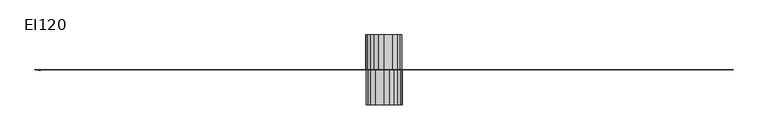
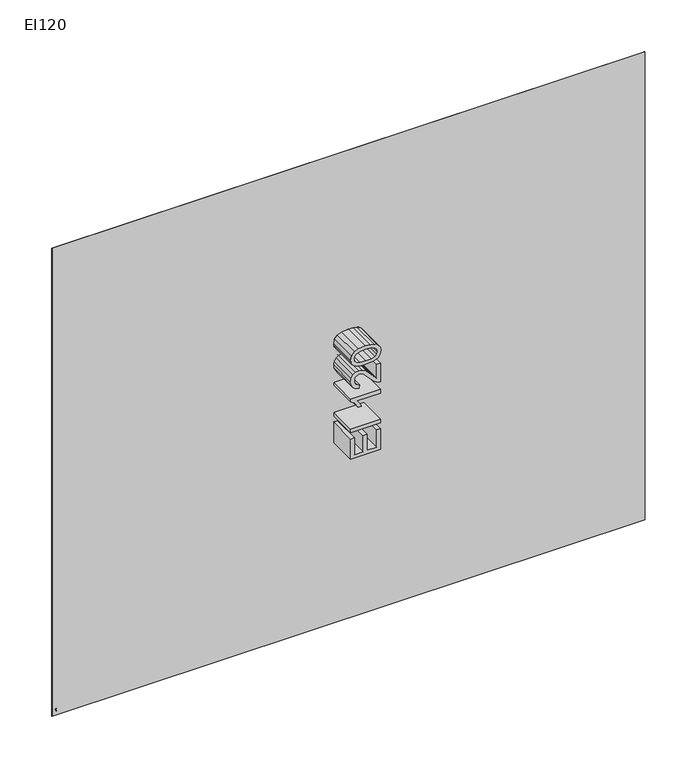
"""IFC4 building model written with IfcOpenShell, lengths in millimetres: proxy geometry, Fire_FireCompartmentationEI : EI120."""

from ifc_helpers import new_model, si_unit, point, frame, frame_2d, origin, origin_with_axes, place, context, project, spatial, polyline, circle_curve, trimmed, segment, composite_curve, outline, extrude, source, transform, mapped, element, save


def ei120_9daad97f(model_context):
    return source(origin(), model_context, "Body", "SweptSolid", [
        extrude(outline(polyline([(3000.0, -0.5), (0.0, -0.5), (0.0, 0.5), (3000.0, 0.5), (3000.0, -0.5)])), origin_with_axes(), (0.0, 0.0, 1.0), 2500.0),
        extrude(outline(composite_curve([segment(trimmed(circle_curve(frame_2d((28.9488523, 20.9372462)), 4.3000253), [point((27.7936078, 25.0791815))], [point((29.724042, 25.1668205))], False, "CARTESIAN"), True, "CONTINUOUS"), segment(trimmed(circle_curve(frame_2d((29.6833004, 19.2917407)), 5.875221), [point((29.724042, 25.1668205))], [point((32.6283278, 24.3755421))], False, "CARTESIAN"), True, "CONTINUOUS"), segment(trimmed(circle_curve(frame_2d((32.8576867, 20.8662932)), 3.5167361), [point((32.6283278, 24.3755421))], [point((30.6249304, 23.5833197))], True, "CARTESIAN"), True, "CONTINUOUS"), segment(trimmed(circle_curve(frame_2d((10.876956, 53.8348059)), 36.1266511), [point((30.6249304, 23.5833197))], [point((25.8949704, 20.9776277))], False, "CARTESIAN"), True, "CONTINUOUS"), segment(trimmed(circle_curve(frame_2d((21.9041848, 33.757735)), 13.3887083), [point((25.8949704, 20.9776277))], [point((22.6832699, 20.3917132))], False, "CARTESIAN"), True, "CONTINUOUS"), segment(trimmed(circle_curve(frame_2d((20.9508608, 39.8789486)), 19.5640891), [point((22.6832699, 20.3917132))], [point((20.0109811, 20.3374489))], False, "CARTESIAN"), True, "CONTINUOUS"), segment(trimmed(circle_curve(frame_2d((18.2722891, 30.1747881)), 9.9898094), [point((20.0109811, 20.3374489))], [point((25.2489423, 23.0247809))], True, "CARTESIAN"), True, "CONTINUOUS"), segment(trimmed(circle_curve(frame_2d((30.9774835, 18.5323372)), 7.2799887), [point((25.2489423, 23.0247809))], [point((27.7936078, 25.0791815))], False, "CARTESIAN"), True, "CONTINUOUS")], self_intersect=False)), frame((0.0, -0.6, 0.0), z_axis=(0.0, 1.0, 0.0), x_axis=(0.0, 0.0, 1.0)), (0.0, 0.0, 1.0), 1.2),
        extrude(outline(composite_curve([segment(trimmed(circle_curve(frame_2d((34.8553456, 17.4656787)), 4.3823741), [point((35.4675373, 21.8050824))], [point((32.7666638, 21.3182897))], True, "CARTESIAN"), True, "CONTINUOUS"), segment(trimmed(circle_curve(frame_2d((31.0348418, 25.2412811)), 4.2882478), [point((32.7666638, 21.3182897))], [point((31.0556823, 20.9530839))], False, "CARTESIAN"), True, "CONTINUOUS"), segment(trimmed(circle_curve(frame_2d((30.8661112, 26.3534755)), 5.4037178), [point((31.0556823, 20.9530839))], [point((28.4262544, 21.5319337))], False, "CARTESIAN"), True, "CONTINUOUS"), segment(trimmed(circle_curve(frame_2d((28.9867579, 26.8058524)), 5.3036197), [point((28.4262544, 21.5319337))], [point((30.6443727, 21.7679267))], True, "CARTESIAN"), True, "CONTINUOUS"), segment(trimmed(circle_curve(frame_2d((33.7648144, 18.2895153)), 4.6729544), [point((30.6443727, 21.7679267))], [point((32.5632515, 22.8053485))], False, "CARTESIAN"), True, "CONTINUOUS"), segment(trimmed(circle_curve(frame_2d((33.1708117, 19.8529583)), 3.0142556), [point((32.5632515, 22.8053485))], [point((35.4675373, 21.8050824))], False, "CARTESIAN"), True, "CONTINUOUS")], self_intersect=False)), frame((0.0, -0.6, 0.0), z_axis=(0.0, 1.0, 0.0), x_axis=(0.0, 0.0, 1.0)), (0.0, 0.0, 1.0), 1.2),
        extrude(outline(composite_curve([segment(trimmed(circle_curve(frame_2d((26.35828, 17.8501973)), 2.1465167), [point((27.6612009, 19.5560492))], [point((26.6135063, 19.9814864))], True, "CARTESIAN"), True, "CONTINUOUS"), segment(trimmed(circle_curve(frame_2d((25.771558, 13.6747037)), 6.3627341), [point((26.6135063, 19.9814864))], [point((25.1811141, 20.0099828))], True, "CARTESIAN"), True, "CONTINUOUS"), segment(trimmed(circle_curve(frame_2d((27.6708438, 15.0485986)), 5.5510437), [point((25.1811141, 20.0099828))], [point((27.8117089, 20.5978547))], False, "CARTESIAN"), True, "CONTINUOUS"), segment(trimmed(circle_curve(frame_2d((27.9681735, 17.2267436)), 3.3747401), [point((27.8117089, 20.5978547))], [point((29.507487, 20.2299728))], False, "CARTESIAN"), True, "CONTINUOUS"), segment(trimmed(circle_curve(frame_2d((31.5381431, 23.6896238)), 4.0115769), [point((29.507487, 20.2299728))], [point((32.2223971, 19.7368341))], True, "CARTESIAN"), True, "CONTINUOUS"), segment(trimmed(circle_curve(frame_2d((29.9256715, 21.6889582)), 3.0142556), [point((32.2223971, 19.7368341))], [point((29.3181113, 18.736568))], False, "CARTESIAN"), True, "CONTINUOUS"), segment(trimmed(circle_curve(frame_2d((30.5170043, 23.2454076)), 4.6655095), [point((29.3181113, 18.736568))], [point((27.6612009, 19.5560492))], False, "CARTESIAN"), True, "CONTINUOUS")], self_intersect=False)), frame((0.0, -0.6, 0.0), z_axis=(0.0, 1.0, 0.0), x_axis=(0.0, 0.0, 1.0)), (0.0, 0.0, 1.0), 1.2),
        extrude(outline(composite_curve([segment(trimmed(circle_curve(frame_2d((32.8467056, 19.4711557)), 3.5167361), [point((30.6139493, 16.7541292))], [point((32.6173467, 15.9619068))], True, "CARTESIAN"), True, "CONTINUOUS"), segment(trimmed(circle_curve(frame_2d((29.6723193, 21.0457082)), 5.875221), [point((32.6173467, 15.9619068))], [point((29.7130609, 15.1706284))], False, "CARTESIAN"), True, "CONTINUOUS"), segment(trimmed(circle_curve(frame_2d((28.9378712, 19.4002026)), 4.3000253), [point((29.7130609, 15.1706284))], [point((27.7826267, 15.2582674))], False, "CARTESIAN"), True, "CONTINUOUS"), segment(trimmed(circle_curve(frame_2d((30.9665024, 21.8051117)), 7.2799887), [point((27.7826267, 15.2582674))], [point((25.2379612, 17.312668))], False, "CARTESIAN"), True, "CONTINUOUS"), segment(trimmed(circle_curve(frame_2d((18.261308, 10.1626608)), 9.9898094), [point((25.2379612, 17.312668))], [point((20.0, 20.0))], True, "CARTESIAN"), True, "CONTINUOUS"), segment(trimmed(circle_curve(frame_2d((20.9398797, 0.4585003)), 19.5640891), [point((20.0, 20.0))], [point((22.6722888, 19.9457357))], False, "CARTESIAN"), True, "CONTINUOUS"), segment(trimmed(circle_curve(frame_2d((21.8932037, 6.5797139)), 13.3887083), [point((22.6722888, 19.9457357))], [point((25.8839893, 19.3598212))], False, "CARTESIAN"), True, "CONTINUOUS"), segment(trimmed(circle_curve(frame_2d((10.8659749, -13.497357)), 36.1266511), [point((25.8839893, 19.3598212))], [point((30.6139493, 16.7541292))], False, "CARTESIAN"), True, "CONTINUOUS")], self_intersect=False)), frame((0.0, -0.6, 0.0), z_axis=(0.0, 1.0, 0.0), x_axis=(0.0, 0.0, 1.0)), (0.0, 0.0, 1.0), 1.2),
        extrude(outline(polyline([(965.1121829, 1425.0), (965.1121829, 1575.6844652), (1073.4166423, 1575.6844652), (1073.4166423, 1556.8489071), (983.9477411, 1556.8489071), (983.9477411, 1512.1144565), (1068.7077528, 1512.1144565), (1068.7077528, 1493.2788983), (983.9477411, 1493.2788983), (983.9477411, 1443.8355582), (1075.7710871, 1443.8355582), (1075.7710871, 1425.0), (965.1121829, 1425.0)])), frame((0.0, 0.0, 0.0), z_axis=(0.0, 1.0, 0.0), x_axis=(0.0, 0.0, 1.0)), (0.0, 0.0, 1.0), 150.0),
        extrude(outline(polyline([(1425.0, 150.0), (1575.6844652, 150.0), (1575.6844652, 0.0), (1425.0, 0.0), (1425.0, 150.0)])), frame((0.0, 0.0, 1106.3788691), z_axis=(0.0, 0.0, 1.0), x_axis=(1.0, 0.0, 0.0)), (0.0, 0.0, 1.0), 18.8355582),
        extrude(outline(polyline([(1285.3166715, 1425.0), (1266.4811134, 1425.0), (1266.4811134, 1542.4279329), (1248.6388366, 1529.7176099), (1228.8099971, 1520.2078604), (1228.8099971, 1538.0133489), (1256.4195408, 1555.6348965), (1273.1765657, 1575.6844652), (1285.3166715, 1575.6844652), (1285.3166715, 1425.0)])), frame((0.0, 0.0, 0.0), z_axis=(0.0, 1.0, 0.0), x_axis=(0.0, 0.0, 1.0)), (0.0, 0.0, 1.0), 150.0),
        extrude(outline(polyline([(1426.5833577, 1443.8355582), (1426.5833577, 1425.0), (1327.6966774, 1425.0), (1329.7200284, 1437.9862344), (1341.1611584, 1457.9806209), (1364.7423943, 1479.8144173), (1397.2631627, 1511.1947515), (1403.3608067, 1522.0104821), (1405.3933548, 1532.5319072), (1403.4757699, 1541.9634818), (1397.7230152, 1549.8039669), (1388.8800517, 1555.087672), (1377.6918405, 1556.8489071), (1365.9426093, 1555.1290587), (1356.8145373, 1549.9695138), (1350.9238269, 1541.7749423), (1348.8866803, 1530.9500146), (1330.0511222, 1533.3044594), (1334.6174574, 1551.5238152), (1344.4904905, 1564.8319464), (1359.1551865, 1572.9713355), (1378.0965107, 1575.6844652), (1397.1757907, 1572.6678329), (1411.8128956, 1563.6179358), (1421.1249086, 1550.0982725), (1424.2289129, 1533.6723414), (1420.8811868, 1515.8116705), (1409.7527564, 1497.3439944), (1382.7686121, 1471.5370724), (1361.1003625, 1453.4188841), (1352.6022885, 1443.8355582), (1426.5833577, 1443.8355582)])), frame((0.0, 0.0, 0.0), z_axis=(0.0, 1.0, 0.0), x_axis=(0.0, 0.0, 1.0)), (0.0, 0.0, 1.0), 150.0),
        extrude(outline(polyline([(1445.4189158, 1499.128222), (1446.8030718, 1523.2474853), (1450.9555399, 1542.4831152), (1457.8349332, 1557.1294171), (1467.399865, 1567.4806967), (1479.7193134, 1573.6335231), (1494.862256, 1575.6844652), (1516.8615993, 1570.8284229), (1532.0551257, 1556.830513), (1540.8842936, 1534.5368641), (1544.3055961, 1499.128222), (1542.9352357, 1475.1469145), (1538.8241544, 1455.9572699), (1531.9861478, 1441.2971724), (1522.4350115, 1430.904506), (1510.0879721, 1424.7102929), (1494.862256, 1422.6455552), (1475.2909338, 1426.2324047), (1460.4285012, 1436.992953), (1449.1713122, 1462.4779783), (1445.4189158, 1499.128222)]), holes=[polyline([(1464.254474, 1499.1650102), (1466.461766, 1469.536714), (1473.0836419, 1452.3888145), (1482.9428793, 1444.2080387), (1494.862256, 1441.4811134), (1506.7816326, 1444.2172357), (1516.6408701, 1452.4256027), (1523.262746, 1469.5826993), (1525.470038, 1499.1650102), (1523.3363224, 1528.1265203), (1516.9351757, 1545.407777), (1507.0943323, 1553.9886246), (1494.6415268, 1556.8489071), (1482.8509088, 1554.3289154), (1473.3779475, 1546.7689404), (1466.5353424, 1528.4116288), (1464.254474, 1499.1650102)])]), frame((0.0, 0.0, 0.0), z_axis=(0.0, 1.0, 0.0), x_axis=(0.0, 0.0, 1.0)), (0.0, 0.0, 1.0), 150.0),
        extrude(outline(polyline([(965.1121829, 1575.0), (1075.7710871, 1575.0), (1075.7710871, 1556.1644418), (983.9477411, 1556.1644418), (983.9477411, 1506.7211017), (1068.7077528, 1506.7211017), (1068.7077528, 1487.8855435), (983.9477411, 1487.8855435), (983.9477411, 1443.1510929), (1073.4166423, 1443.1510929), (1073.4166423, 1424.3155348), (965.1121829, 1424.3155348), (965.1121829, 1575.0)])), frame((0.0, -150.0, 0.0), z_axis=(0.0, 1.0, 0.0), x_axis=(0.0, 0.0, 1.0)), (0.0, 0.0, 1.0), 150.0),
        extrude(outline(polyline([(1575.0, -150.0), (1424.3155348, -150.0), (1424.3155348, 0.0), (1575.0, 0.0), (1575.0, -150.0)])), frame((0.0, 0.0, 1106.3788691), z_axis=(0.0, 0.0, 1.0), x_axis=(1.0, 0.0, 0.0)), (0.0, 0.0, 1.0), 18.8355582),
        extrude(outline(polyline([(1285.3166715, 1575.0), (1285.3166715, 1424.3155348), (1273.1765657, 1424.3155348), (1256.4195408, 1444.3651035), (1228.8099971, 1461.9866511), (1228.8099971, 1479.7921396), (1248.6388366, 1470.2823901), (1266.4811134, 1457.5720671), (1266.4811134, 1575.0), (1285.3166715, 1575.0)])), frame((0.0, -150.0, 0.0), z_axis=(0.0, 1.0, 0.0), x_axis=(0.0, 0.0, 1.0)), (0.0, 0.0, 1.0), 150.0),
        extrude(outline(polyline([(1426.5833577, 1556.1644418), (1352.6022885, 1556.1644418), (1361.1003625, 1546.5811159), (1382.7686121, 1528.4629276), (1409.7527564, 1502.6560056), (1420.8811868, 1484.1883295), (1424.2289129, 1466.3276586), (1421.1249086, 1449.9017275), (1411.8128956, 1436.3820642), (1397.1757907, 1427.3321671), (1378.0965107, 1424.3155348), (1359.1551865, 1427.0286645), (1344.4904905, 1435.1680536), (1334.6174574, 1448.4761848), (1330.0511222, 1466.6955406), (1348.8866803, 1469.0499854), (1350.9238269, 1458.2250577), (1356.8145373, 1450.0304862), (1365.9426093, 1444.8709413), (1377.6918405, 1443.1510929), (1388.8800517, 1444.912328), (1397.7230152, 1450.1960331), (1403.4757699, 1458.0365182), (1405.3933548, 1467.4680928), (1403.3608067, 1477.9895179), (1397.2631627, 1488.8052485), (1364.7423943, 1520.1855827), (1341.1611584, 1542.0193791), (1329.7200284, 1562.0137656), (1327.6966774, 1575.0), (1426.5833577, 1575.0), (1426.5833577, 1556.1644418)])), frame((0.0, -150.0, 0.0), z_axis=(0.0, 1.0, 0.0), x_axis=(0.0, 0.0, 1.0)), (0.0, 0.0, 1.0), 150.0),
        extrude(outline(polyline([(1445.4189158, 1500.871778), (1449.1713122, 1537.5220217), (1460.4285012, 1563.007047), (1475.2909338, 1573.7675953), (1494.862256, 1577.3544448), (1510.0879721, 1575.2897071), (1522.4350115, 1569.095494), (1531.9861478, 1558.7028276), (1538.8241544, 1544.0427301), (1542.9352357, 1524.8530855), (1544.3055961, 1500.871778), (1540.8842936, 1465.4631359), (1532.0551257, 1443.169487), (1516.8615993, 1429.1715771), (1494.862256, 1424.3155348), (1479.7193134, 1426.3664769), (1467.399865, 1432.5193033), (1457.8349332, 1442.8705829), (1450.9555399, 1457.5168848), (1446.8030718, 1476.7525147), (1445.4189158, 1500.871778)]), holes=[polyline([(1464.254474, 1500.8349898), (1466.5353424, 1471.5883712), (1473.3779475, 1453.2310596), (1482.8509088, 1445.6710846), (1494.6415268, 1443.1510929), (1507.0943323, 1446.0113754), (1516.9351757, 1454.592223), (1523.3363224, 1471.8734797), (1525.470038, 1500.8349898), (1523.262746, 1530.4173007), (1516.6408701, 1547.5743973), (1506.7816326, 1555.7827643), (1494.862256, 1558.5188866), (1482.9428793, 1555.7919613), (1473.0836419, 1547.6111855), (1466.461766, 1530.463286), (1464.254474, 1500.8349898)])]), frame((0.0, -150.0, 0.0), z_axis=(0.0, 1.0, 0.0), x_axis=(0.0, 0.0, 1.0)), (0.0, 0.0, 1.0), 150.0),
    ])


if __name__ == "__main__":
    model = new_model("IFC4")
    model_context = context("Model", 3, world=origin())
    ifc_project = project(units=[si_unit("LENGTHUNIT", "METRE", prefix="MILLI")], contexts=[model_context])
    site = spatial("IfcSite", under=ifc_project)
    building = spatial("IfcBuilding", under=site)
    placement = place(None, origin())
    ei120_shape = ei120_9daad97f(model_context)
    element("IfcBuildingElementProxy", 1, Name="Fire_FireCompartmentationEI : EI120", ObjectType="Fire_FireCompartmentationEI : EI120", at=placement, inside=building, context=model_context, shape_type="MappedRepresentation", body=[
        mapped(ei120_shape, transform((0.0, 0.0, 0.0), x_axis=(1.0, 0.0, 0.0), y_axis=(0.0, 1.0, 0.0), z_axis=(0.0, 0.0, 1.0))),
    ])
    save(model, "model.ifc")
